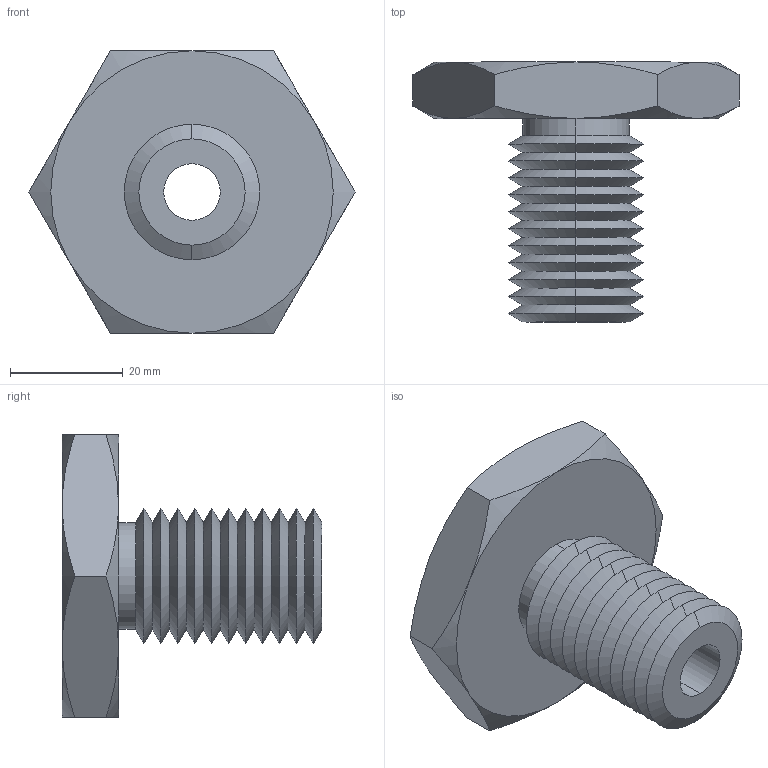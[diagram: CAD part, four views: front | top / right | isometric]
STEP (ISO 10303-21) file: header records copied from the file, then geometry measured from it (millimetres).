
FILE_DESCRIPTION (( 'STEP AP203' ), '1' );
FILE_NAME ('63302.W0024_M10x1,5.step', '2013-12-08T11:02:33', ( 'User' ), ( '' ), 'SwSTEP 2.0', 'SolidWorks 2009', '' );
FILE_SCHEMA (( 'CONFIG_CONTROL_DESIGN' ));
Length unit declared in the file: millimetre
Products named in the file (1): 63302.W0024_M10x1,5
Bounding box: 57.73 x 46 x 50 mm (x, y, z)
Volume: 30490.4 mm3; surface area: 11737.4 mm2
Topology: 1 solids, 1 shells, 71 faces, 146 edges, 78 vertices
Faces by surface type: cone 58, plane 9, cylinder 4
Entity records: 2039 total; most frequent: CARTESIAN_POINT 480, DIRECTION 332, ORIENTED_EDGE 292, EDGE_CURVE 146, AXIS2_PLACEMENT_3D 138, VERTEX_POINT 78, EDGE_LOOP 74, ADVANCED_FACE 71
